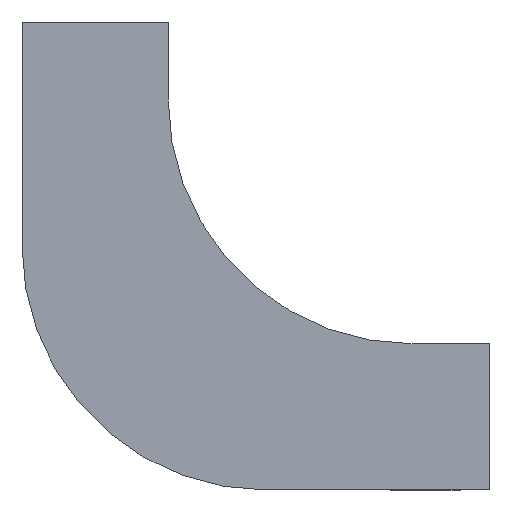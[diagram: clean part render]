
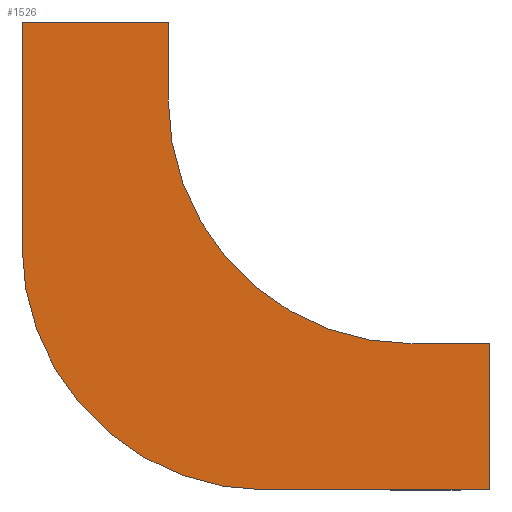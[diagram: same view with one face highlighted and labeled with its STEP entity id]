
A CAD part, front view. The second image highlights one B-rep face of the part: STEP entity #1526.
In plain terms, the highlighted planar face has unit normal (0, -1, 0).
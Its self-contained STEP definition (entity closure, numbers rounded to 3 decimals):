
#10 = VECTOR ( 'NONE', #1061, 1000. ) ;
#99 = CARTESIAN_POINT ( 'NONE',  ( 40., 0., -200. ) ) ;
#107 = VECTOR ( 'NONE', #706, 1000. ) ;
#117 = PLANE ( 'NONE',  #1637 ) ;
#147 = VERTEX_POINT ( 'NONE', #99 ) ;
#215 = CARTESIAN_POINT ( 'NONE',  ( 0., 0., -125. ) ) ;
#236 = EDGE_CURVE ( 'NONE', #897, #1463, #1110, .T. ) ;
#322 = ORIENTED_EDGE ( 'NONE', *, *, #560, .F. ) ;
#327 = DIRECTION ( 'NONE',  ( 0., 0., 1. ) ) ;
#332 = CARTESIAN_POINT ( 'NONE',  ( -125., 0., 40. ) ) ;
#340 = VECTOR ( 'NONE', #592, 1000. ) ;
#380 = DIRECTION ( 'NONE',  ( 0., 0., -1. ) ) ;
#388 = CARTESIAN_POINT ( 'NONE',  ( -200., 0., -75. ) ) ;
#397 = EDGE_CURVE ( 'NONE', #1108, #897, #1056, .T. ) ;
#402 = DIRECTION ( 'NONE',  ( -1., 0., 0. ) ) ;
#479 = DIRECTION ( 'NONE',  ( 0., 1., 0. ) ) ;
#512 = EDGE_LOOP ( 'NONE', ( #530, #987, #322, #881, #1605, #1012, #1224, #896 ) ) ;
#530 = ORIENTED_EDGE ( 'NONE', *, *, #236, .F. ) ;
#557 = CARTESIAN_POINT ( 'NONE',  ( 40., 0., -125. ) ) ;
#560 = EDGE_CURVE ( 'NONE', #826, #1108, #998, .T. ) ;
#573 = CARTESIAN_POINT ( 'NONE',  ( -200., 0., -75. ) ) ;
#592 = DIRECTION ( 'NONE',  ( 1., 0., 0. ) ) ;
#603 = LINE ( 'NONE', #215, #107 ) ;
#610 = CARTESIAN_POINT ( 'NONE',  ( -75., 0., -75. ) ) ;
#616 = LINE ( 'NONE', #1048, #1165 ) ;
#623 = CARTESIAN_POINT ( 'NONE',  ( 0., 0., 0. ) ) ;
#624 = LINE ( 'NONE', #1286, #1512 ) ;
#629 = EDGE_CURVE ( 'NONE', #1019, #1291, #603, .T. ) ;
#664 = CARTESIAN_POINT ( 'NONE',  ( -125., 0., 40. ) ) ;
#668 = DIRECTION ( 'NONE',  ( 0., 0., 1. ) ) ;
#684 = CARTESIAN_POINT ( 'NONE',  ( -125., 0., 0. ) ) ;
#706 = DIRECTION ( 'NONE',  ( 1., 0., 0. ) ) ;
#747 = CARTESIAN_POINT ( 'NONE',  ( 0., 0., 0. ) ) ;
#749 = CARTESIAN_POINT ( 'NONE',  ( -200., 0., 40. ) ) ;
#826 = VERTEX_POINT ( 'NONE', #1340 ) ;
#829 = AXIS2_PLACEMENT_3D ( 'NONE', #747, #1430, #1528 ) ;
#849 = VERTEX_POINT ( 'NONE', #684 ) ;
#881 = ORIENTED_EDGE ( 'NONE', *, *, #1552, .F. ) ;
#882 = DIRECTION ( 'NONE',  ( 0., 0., -1. ) ) ;
#896 = ORIENTED_EDGE ( 'NONE', *, *, #1222, .F. ) ;
#897 = VERTEX_POINT ( 'NONE', #1089 ) ;
#908 = VECTOR ( 'NONE', #668, 1000. ) ;
#987 = ORIENTED_EDGE ( 'NONE', *, *, #397, .F. ) ;
#998 = CIRCLE ( 'NONE', #1267, 125. ) ;
#1012 = ORIENTED_EDGE ( 'NONE', *, *, #629, .F. ) ;
#1019 = VERTEX_POINT ( 'NONE', #1255 ) ;
#1048 = CARTESIAN_POINT ( 'NONE',  ( 40., 0., -200. ) ) ;
#1056 = LINE ( 'NONE', #573, #908 ) ;
#1061 = DIRECTION ( 'NONE',  ( 0., 0., -1. ) ) ;
#1089 = CARTESIAN_POINT ( 'NONE',  ( -200., 0., 40. ) ) ;
#1102 = EDGE_CURVE ( 'NONE', #1291, #147, #624, .T. ) ;
#1108 = VERTEX_POINT ( 'NONE', #388 ) ;
#1110 = LINE ( 'NONE', #749, #340 ) ;
#1144 = EDGE_CURVE ( 'NONE', #849, #1019, #1540, .T. ) ;
#1165 = VECTOR ( 'NONE', #402, 1000. ) ;
#1179 = LINE ( 'NONE', #664, #10 ) ;
#1185 = DIRECTION ( 'NONE',  ( 0., -1., 0. ) ) ;
#1222 = EDGE_CURVE ( 'NONE', #1463, #849, #1179, .T. ) ;
#1224 = ORIENTED_EDGE ( 'NONE', *, *, #1144, .F. ) ;
#1255 = CARTESIAN_POINT ( 'NONE',  ( 0., 0., -125. ) ) ;
#1267 = AXIS2_PLACEMENT_3D ( 'NONE', #610, #479, #327 ) ;
#1286 = CARTESIAN_POINT ( 'NONE',  ( 40., 0., -125. ) ) ;
#1291 = VERTEX_POINT ( 'NONE', #557 ) ;
#1340 = CARTESIAN_POINT ( 'NONE',  ( -75., 0., -200. ) ) ;
#1430 = DIRECTION ( 'NONE',  ( 0., -1., 0. ) ) ;
#1463 = VERTEX_POINT ( 'NONE', #332 ) ;
#1512 = VECTOR ( 'NONE', #380, 1000. ) ;
#1526 = ADVANCED_FACE ( 'NONE', ( #1534 ), #117, .T. ) ;
#1528 = DIRECTION ( 'NONE',  ( 0., 0., -1. ) ) ;
#1534 = FACE_OUTER_BOUND ( 'NONE', #512, .T. ) ;
#1540 = CIRCLE ( 'NONE', #829, 125. ) ;
#1552 = EDGE_CURVE ( 'NONE', #147, #826, #616, .T. ) ;
#1605 = ORIENTED_EDGE ( 'NONE', *, *, #1102, .F. ) ;
#1637 = AXIS2_PLACEMENT_3D ( 'NONE', #623, #1185, #882 ) ;
